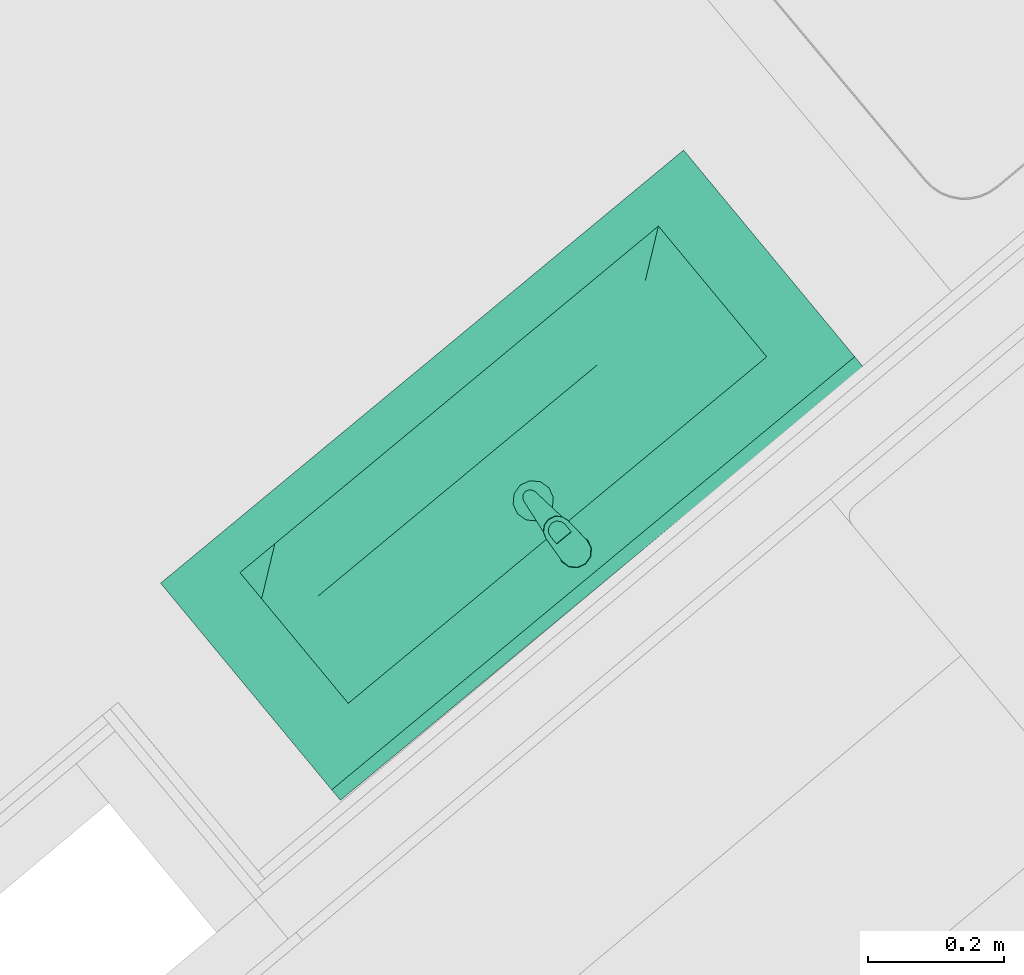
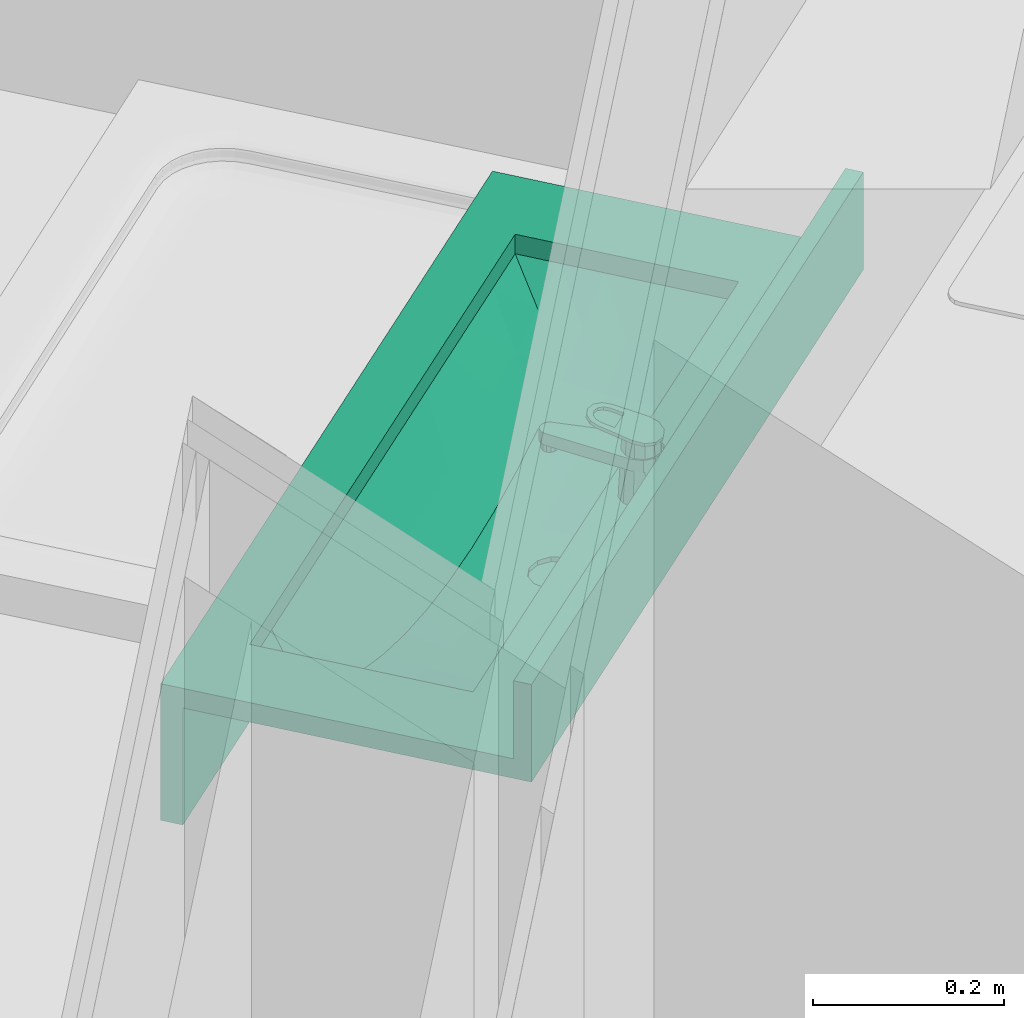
# One storey, part 69 of 75: 1 sanitary terminal.
"""IFC4 building model written with IfcOpenShell, lengths in metres."""

import ifcopenshell
import ifcopenshell.guid

model = None  # the IFC model being written
_history = None  # IfcOwnerHistory: only IFC2X3 demands one
_inside = {}  # id of a spatial element -> (the spatial element, [elements in it])
_under = {}  # id of a project, library or spatial element -> (it, [spatial elements below it])
_declared = {}  # id of a project -> (the project, [libraries it declares])
_typed = {}  # id of a type object -> (the type object, [elements of that type])
_made_of = {}  # id of a material, layer set ... -> (it, [elements and type objects made of it])


def new_model(schema):
    """Start an empty IFC model of exactly this schema.

    Asked for "IFC4X3", IfcOpenShell would pick the latest addendum, in which some entities
    have other attributes; the version numbers below select the first issue.
    IFC2X3 requires an IfcOwnerHistory on every rooted entity: one is made here for all.
    """
    global model, _history
    if schema == "IFC4X3":
        model = ifcopenshell.file(schema_version=(4, 3, 0, 0))
    else:
        model = ifcopenshell.file(schema=schema)
    _inside.clear()
    _under.clear()
    _declared.clear()
    _typed.clear()
    _made_of.clear()
    _history = None
    if model.schema == "IFC2X3":
        org = make("IfcOrganization", Name="unknown")
        user = make(
            "IfcPersonAndOrganization",
            ThePerson=make("IfcPerson", FamilyName="unknown"),
            TheOrganization=org,
        )
        app = make(
            "IfcApplication",
            ApplicationDeveloper=org,
            Version="unknown",
            ApplicationFullName="unknown",
            ApplicationIdentifier="unknown",
        )
        _history = make(
            "IfcOwnerHistory",
            OwningUser=user,
            OwningApplication=app,
            ChangeAction="ADDED",
            CreationDate=0,
        )
    return model


def make(cls, **values):
    """One entity of the class cls with the attributes given. An attribute that is None is left unset."""
    return model.create_entity(
        cls, **{name: value for name, value in values.items() if value is not None}
    )


def entity(cls, *values):
    """Any entity or typed value of the class cls, its attributes in the order of the schema. None: left unset."""
    e = model.create_entity(cls)
    for i, value in enumerate(values):
        if value is not None:
            e[i] = value
    return e


def rooted(cls, **values):
    """An entity with a GlobalId (a new one), such as an element, a storey or a relation."""
    return make(cls, GlobalId=ifcopenshell.guid.new(), OwnerHistory=_history, **values)


def si_unit(unit_type, name, prefix=None):
    """IfcSIUnit, for example si_unit("LENGTHUNIT", "METRE", prefix="MILLI")."""
    return make("IfcSIUnit", UnitType=unit_type, Prefix=prefix, Name=name)


def converted_unit(unit_type, name, factor, base, dimensions=None, offset=None):
    """IfcConversionBasedUnit, such as the inch: factor (a typed value) times the base unit."""
    return make(
        "IfcConversionBasedUnit"
        if offset is None
        else "IfcConversionBasedUnitWithOffset",
        ConversionOffset=offset,
        Dimensions=None
        if dimensions is None
        else entity("IfcDimensionalExponents", *dimensions),
        UnitType=unit_type,
        Name=name,
        ConversionFactor=make(
            "IfcMeasureWithUnit", ValueComponent=factor, UnitComponent=base
        ),
    )


def derived_unit(unit_type, elements):
    """IfcDerivedUnit: a product of units, each with its exponent."""
    return make(
        "IfcDerivedUnit",
        Elements=[
            make("IfcDerivedUnitElement", Unit=unit, Exponent=power)
            for unit, power in elements
        ],
        UnitType=unit_type,
    )


def assignment(units):
    """IfcUnitAssignment: the units of a project."""
    return None if units is None else make("IfcUnitAssignment", Units=units)


def point(xyz):
    """IfcCartesianPoint."""
    return None if xyz is None else make("IfcCartesianPoint", Coordinates=xyz)


def direction(xyz):
    """IfcDirection."""
    return None if xyz is None else make("IfcDirection", DirectionRatios=xyz)


def frame(location, z_axis=None, x_axis=None):
    """IfcAxis2Placement3D, a coordinate frame: its origin and axes. An axis left out is left unset."""
    return make(
        "IfcAxis2Placement3D",
        Location=point(location),
        Axis=direction(z_axis),
        RefDirection=direction(x_axis),
    )


def origin_with_axes():
    """The frame at (0, 0, 0) with the z axis (0, 0, 1) and the x axis (1, 0, 0) written out."""
    return frame((0.0, 0.0, 0.0), z_axis=(0.0, 0.0, 1.0), x_axis=(1.0, 0.0, 0.0))


def place(relative_to, where):
    """IfcLocalPlacement: puts the frame where relative to a parent placement (None: the world)."""
    return make(
        "IfcLocalPlacement", PlacementRelTo=relative_to, RelativePlacement=where
    )


def context(
    kind, dimensions, precision=None, world=None, true_north=None, identifier=None
):
    """IfcGeometricRepresentationContext, for example the 3D "Model" context."""
    return make(
        "IfcGeometricRepresentationContext",
        ContextIdentifier=identifier,
        ContextType=kind,
        CoordinateSpaceDimension=dimensions,
        Precision=precision,
        WorldCoordinateSystem=world,
        TrueNorth=true_north,
    )


def subcontext(parent, identifier, kind, view, scale=None):
    """IfcGeometricRepresentationSubContext, for example "Body" below "Model"."""
    return make(
        "IfcGeometricRepresentationSubContext",
        ContextIdentifier=identifier,
        ContextType=kind,
        ParentContext=parent,
        TargetScale=scale,
        TargetView=view,
    )


def project(units=None, contexts=None):
    """IfcProject with its units and contexts."""
    return rooted(
        "IfcProject",
        Name="project",
        RepresentationContexts=contexts,
        UnitsInContext=assignment(units),
    )


def spatial(cls, under=None, at=None, **own):
    """A site, building, storey or space (cls), placed at a placement, below another one or the project."""
    s = rooted(cls, ObjectPlacement=at, **own)
    if under is not None:
        _under.setdefault(under.id(), (under, []))[1].append(s)
    return s


def point_list(points):
    """IfcCartesianPointList2D or 3D."""
    cls = (
        "IfcCartesianPointList2D" if len(points[0]) == 2 else "IfcCartesianPointList3D"
    )
    return make(cls, CoordList=points)


def polygons(points, faces, closed=None, point_numbers=None):
    """IfcPolygonalFaceSet: a face is its outer loop, then its inner loops; points numbered from 1."""
    made = []
    for loops in faces:
        if len(loops) == 1:
            made.append(make("IfcIndexedPolygonalFace", CoordIndex=loops[0]))
        else:
            made.append(
                make(
                    "IfcIndexedPolygonalFaceWithVoids",
                    CoordIndex=loops[0],
                    InnerCoordIndices=loops[1:],
                )
            )
    return make(
        "IfcPolygonalFaceSet",
        Coordinates=point_list(points),
        Closed=closed,
        Faces=made,
        PnIndex=point_numbers,
    )


def shape(context_of_items, identifier, shape_type, items):
    """IfcShapeRepresentation: the items that make up one representation, for example the "Body"."""
    return make(
        "IfcShapeRepresentation",
        ContextOfItems=context_of_items,
        RepresentationIdentifier=identifier,
        RepresentationType=shape_type,
        Items=items,
    )


def source(mapping_origin, context_of_items, identifier, shape_type, items):
    """IfcRepresentationMap: a shape defined once, which mapped items show again and again."""
    return make(
        "IfcRepresentationMap",
        MappingOrigin=mapping_origin,
        MappedRepresentation=shape(context_of_items, identifier, shape_type, items),
    )


def transform(
    local_origin,
    x_axis=None,
    y_axis=None,
    z_axis=None,
    scale=None,
    scale2=None,
    scale3=None,
    uniform=True,
):
    """IfcCartesianTransformationOperator3D, or its non-uniform kind. x_axis, y_axis, z_axis: its Axis1, 2, 3."""
    if uniform:
        return make(
            "IfcCartesianTransformationOperator3D",
            Axis1=direction(x_axis),
            Axis2=direction(y_axis),
            LocalOrigin=point(local_origin),
            Scale=scale,
            Axis3=direction(z_axis),
        )
    return make(
        "IfcCartesianTransformationOperator3DnonUniform",
        Axis1=direction(x_axis),
        Axis2=direction(y_axis),
        LocalOrigin=point(local_origin),
        Scale=scale,
        Axis3=direction(z_axis),
        Scale2=scale2,
        Scale3=scale3,
    )


def mapped(mapping_source, mapping_target):
    """IfcMappedItem: shows the shape of a source again, moved by a transform."""
    return make(
        "IfcMappedItem", MappingSource=mapping_source, MappingTarget=mapping_target
    )


def made_of(thing, what):
    """Note that an element or type object is made of a material, layer set ...; save() writes the relation."""
    if what is not None:
        _made_of.setdefault(what.id(), (what, []))[1].append(thing)
    return thing


def type_object(cls, material=None, **own):
    """A type object (cls), such as IfcWallType, which elements share."""
    return made_of(rooted(cls, **own), material)


def element(
    cls,
    number,
    at=None,
    inside=None,
    cuts=None,
    type_object=None,
    material=None,
    context=None,
    identifier="Body",
    shape_type=None,
    held_by="IfcProductDefinitionShape",
    body=None,
    shapes=None,
    **own,
):
    """One element of the class cls, such as IfcWall. Its Tag is "e" and its number.

    at: its placement. inside: the storey or other place that contains it. cuts: it is an
    opening in that element (IfcRelVoidsElement). A single representation is given by context,
    identifier, shape_type and body (its items); several are given by shapes. held_by: the class
    of the entity that holds the representations. save() writes the other relations.
    """
    e = rooted(cls, Tag="e%d" % number, ObjectPlacement=at, **own)
    if body is not None:
        shapes = [shape(context, identifier, shape_type, body)]
    if shapes is not None:
        e.Representation = make(held_by, Representations=shapes)
    if inside is not None:
        _inside.setdefault(inside.id(), (inside, []))[1].append(e)
    if cuts is not None:
        rooted(
            "IfcRelVoidsElement", RelatingBuildingElement=cuts, RelatedOpeningElement=e
        )
    if type_object is not None:
        _typed.setdefault(type_object.id(), (type_object, []))[1].append(e)
    return made_of(e, material)


def aggregate(whole, parts):
    """IfcRelAggregates: a whole, such as a stair, and the parts it consists of."""
    return rooted("IfcRelAggregates", RelatingObject=whole, RelatedObjects=parts)


def save(model, path):
    """Write the relations noted so far, then the file.

    IfcRelAggregates (storeys below a building ...), IfcRelContainedInSpatialStructure (elements
    in a storey), IfcRelDefinesByType, IfcRelAssociatesMaterial and IfcRelDeclares: one each for
    every whole, place, type object, material and project.
    """
    for whole, parts in _under.values():
        aggregate(whole, parts)
    for where, things in _inside.values():
        rooted(
            "IfcRelContainedInSpatialStructure",
            RelatedElements=things,
            RelatingStructure=where,
        )
    for kind, things in _typed.values():
        rooted("IfcRelDefinesByType", RelatedObjects=things, RelatingType=kind)
    for what, things in _made_of.values():
        rooted("IfcRelAssociatesMaterial", RelatedObjects=things, RelatingMaterial=what)
    for by, libraries in _declared.values():
        rooted("IfcRelDeclares", RelatingContext=by, RelatedDefinitions=libraries)
    model.write(path)


model = new_model("IFC4")

# Units and contexts
model_context = context("Model", 3, precision=1e-05, world=origin_with_axes(), true_north=direction((0.0, 1.0)))
body_context = subcontext(model_context, "Body", "Model", "MODEL_VIEW")
ifc_project = project(units=[si_unit("LENGTHUNIT", "METRE"), si_unit("AREAUNIT", "SQUARE_METRE"), si_unit("VOLUMEUNIT", "CUBIC_METRE"), converted_unit("PLANEANGLEUNIT", "DEGREE", entity("IfcPlaneAngleMeasure", 0.0174532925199), si_unit("PLANEANGLEUNIT", "RADIAN"), dimensions=[0, 0, 0, 0, 0, 0, 0]), converted_unit("TIMEUNIT", "Year", entity("IfcTimeMeasure", 31556926.0), si_unit("TIMEUNIT", "SECOND"), dimensions=[0, 0, 1, 0, 0, 0, 0]), si_unit("MASSUNIT", "GRAM", prefix="KILO"), si_unit("THERMODYNAMICTEMPERATUREUNIT", "DEGREE_CELSIUS"), si_unit("LUMINOUSINTENSITYUNIT", "LUMEN"), si_unit("ENERGYUNIT", "JOULE", prefix="MEGA"), derived_unit("THERMALCONDUCTANCEUNIT", [(si_unit("POWERUNIT", "WATT"), 1), (si_unit("LENGTHUNIT", "METRE"), -1), (si_unit("THERMODYNAMICTEMPERATUREUNIT", "KELVIN"), -1)]), derived_unit("SPECIFICHEATCAPACITYUNIT", [(si_unit("ENERGYUNIT", "JOULE"), 1), (si_unit("MASSUNIT", "GRAM", prefix="KILO"), -1), (si_unit("THERMODYNAMICTEMPERATUREUNIT", "KELVIN"), -1)]), derived_unit("MASSDENSITYUNIT", [(si_unit("MASSUNIT", "GRAM", prefix="KILO"), 1), (si_unit("VOLUMEUNIT", "CUBIC_METRE"), -1)])], contexts=[model_context])

# Site, building, storey, space
site_placement = place(None, frame((-0.00153261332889, -0.00661245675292, 0.0), z_axis=(0.0, 0.0, 1.0), x_axis=(1.0, 0.0, 0.0)))
site = spatial("IfcSite", under=ifc_project, at=site_placement, Name="Gelände", CompositionType="ELEMENT")
building_placement = place(site_placement, origin_with_axes())
building = spatial("IfcBuilding", under=site, at=building_placement, Name="Gebäude", CompositionType="ELEMENT")
storey_placement = place(building_placement, frame((0.0, 0.0, -0.22), z_axis=(0.0, 0.0, 1.0), x_axis=(1.0, 0.0, 0.0)))
storey = spatial("IfcBuildingStorey", under=building, at=storey_placement, Name="EG", CompositionType="ELEMENT", Elevation=-0.22)
space_placement = place(storey_placement, frame((7.10032609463, 23.6820800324, 0.22), z_axis=(0.0, 0.0, 1.0), x_axis=(0.767365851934, 0.641209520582, 0.0)))
space = spatial("IfcSpace", under=storey, at=space_placement, CompositionType="ELEMENT", PredefinedType="NOTDEFINED")

# Sanitary terminal
sanitary_terminal_type = type_object("IfcSanitaryTerminalType", Name="Waschbecken mehrfach 26", PredefinedType="NOTDEFINED")
shared_shape = source(origin_with_axes(), body_context, "Body", "Tessellation", [
    polygons([(-0.5, 0.0, 0.875), (0.5, 0.0, 0.875), (0.5, -0.415119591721, 0.875), (-0.5, -0.415119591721, 0.875), (-0.4, -0.35255979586, 0.875), (0.4, -0.35255979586, 0.875), (0.4, -0.10255979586, 0.875), (-0.4, -0.10255979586, 0.875), (-0.5, 0.0, 0.9), (0.5, 0.0, 0.9), (0.5, -0.415119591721, 0.9), (-0.5, -0.415119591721, 0.9), (-0.4, -0.35255979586, 0.9), (0.4, -0.35255979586, 0.9), (0.4, -0.10255979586, 0.9), (-0.4, -0.10255979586, 0.9)], [[[1, 2, 3, 4], [5, 6, 7, 8]], [[1, 9, 10, 2]], [[2, 10, 11, 3]], [[3, 11, 12, 4]], [[4, 12, 9, 1]], [[13, 14, 6, 5]], [[14, 15, 7, 6]], [[15, 16, 8, 7]], [[16, 13, 5, 8]], [[11, 10, 9, 12], [13, 16, 15, 14]]], closed=True),
    polygons([(-0.5, -0.02, 0.9), (0.5, -0.02, 0.9), (0.5, -0.02, 1.0), (-0.5, -0.02, 1.0), (-0.5, 0.0, 0.9), (0.5, 0.0, 0.9), (0.5, 0.0, 1.0), (-0.5, 0.0, 1.0)], [[[1, 2, 3, 4]], [[1, 5, 6, 2]], [[2, 6, 7, 3]], [[4, 3, 7, 8]], [[5, 1, 4, 8]], [[6, 5, 8, 7]]], closed=True),
    polygons([(-0.5, -0.415119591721, 0.725), (0.5, -0.415119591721, 0.725), (0.5, -0.415119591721, 0.875), (-0.5, -0.415119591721, 0.875), (-0.5, -0.390119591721, 0.725), (0.5, -0.390119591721, 0.725), (0.5, -0.390119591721, 0.875), (-0.5, -0.390119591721, 0.875)], [[[1, 2, 3, 4]], [[1, 5, 6, 2]], [[2, 6, 7, 3]], [[4, 3, 7, 8]], [[5, 1, 4, 8]], [[6, 5, 8, 7]]], closed=True),
    polygons([(0.0, -0.18855104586, 0.775), (-0.015, -0.184531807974, 0.775589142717), (-0.0259807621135, -0.17355104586, 0.776020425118), (-0.03, -0.15855104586, 0.776178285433), (-0.0283946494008, -0.15255979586, 0.776115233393), (-0.0666666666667, -0.15255979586, 0.777618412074), (-0.0666666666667, -0.20255979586, 0.777618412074), (0.0, -0.20255979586, 0.775), (-0.015, -0.132570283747, 0.775589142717), (0.0, -0.12855104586, 0.775), (0.0, -0.10255979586, 0.775), (-0.0666666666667, -0.10255979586, 0.777618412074), (-0.0259807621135, -0.14355104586, 0.776020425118), (-0.133333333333, -0.15255979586, 0.785522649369), (-0.133333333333, -0.20255979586, 0.785522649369), (-0.0666666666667, -0.25255979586, 0.787498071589), (0.0666666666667, -0.15255979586, 0.777618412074), (0.0283946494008, -0.15255979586, 0.776115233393), (0.03, -0.15855104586, 0.776178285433), (0.0259807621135, -0.17355104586, 0.776020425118), (0.015, -0.184531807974, 0.775589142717), (0.0666666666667, -0.20255979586, 0.777618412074), (0.015, -0.132570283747, 0.775589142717), (0.0259807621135, -0.14355104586, 0.776020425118), (0.0666666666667, -0.10255979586, 0.777618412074), (0.2, -0.10255979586, 0.798864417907), (0.266666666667, -0.10255979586, 0.81791333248), (0.333333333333, -0.10255979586, 0.843086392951), (0.4, -0.10255979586, 0.875), (-0.4, -0.10255979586, 0.875), (-0.333333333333, -0.10255979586, 0.843086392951), (-0.266666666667, -0.10255979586, 0.81791333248), (-0.2, -0.10255979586, 0.798864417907), (-0.133333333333, -0.10255979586, 0.785522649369), (0.133333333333, -0.10255979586, 0.785522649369), (-0.2, -0.15255979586, 0.798864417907), (-0.2, -0.20255979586, 0.798864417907), (-0.133333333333, -0.25255979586, 0.794673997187), (0.0, -0.25255979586, 0.785118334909), (0.133333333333, -0.20255979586, 0.785522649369), (0.133333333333, -0.15255979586, 0.785522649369), (0.266666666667, -0.15255979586, 0.81791333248), (0.2, -0.15255979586, 0.798864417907), (0.333333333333, -0.15255979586, 0.843086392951), (0.4, -0.15255979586, 0.875), (-0.333333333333, -0.15255979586, 0.843086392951), (-0.4, -0.15255979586, 0.875), (-0.266666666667, -0.15255979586, 0.81791333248), (-0.266666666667, -0.20255979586, 0.81791333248), (-0.2, -0.25255979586, 0.80675915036), (-0.0666666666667, -0.30255979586, 0.828578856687), (-0.133333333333, -0.30255979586, 0.832507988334), (0.0666666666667, -0.25255979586, 0.787498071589), (0.2, -0.20255979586, 0.798864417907), (0.266666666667, -0.20255979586, 0.81791333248), (0.333333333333, -0.20255979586, 0.843086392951), (0.4, -0.20255979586, 0.875), (0.4, -0.25255979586, 0.875), (0.4, -0.30255979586, 0.875), (0.4, -0.35255979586, 0.875), (-0.4, -0.25255979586, 0.875), (-0.4, -0.20255979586, 0.875), (-0.4, -0.35255979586, 0.875), (-0.4, -0.30255979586, 0.875), (-0.333333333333, -0.20255979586, 0.843086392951), (-0.266666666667, -0.25255979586, 0.823952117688), (-0.2, -0.30255979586, 0.839076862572), (0.0, -0.30255979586, 0.827271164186), (0.133333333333, -0.25255979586, 0.794673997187), (0.2, -0.25255979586, 0.80675915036), (0.266666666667, -0.25255979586, 0.823952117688), (0.333333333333, -0.25255979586, 0.846554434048), (0.333333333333, -0.30255979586, 0.860271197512), (0.333333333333, -0.35255979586, 0.875), (-0.333333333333, -0.30255979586, 0.860271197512), (-0.333333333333, -0.25255979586, 0.846554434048), (-0.266666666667, -0.30255979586, 0.848316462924), (-0.0666666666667, -0.35255979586, 0.875), (-0.133333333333, -0.35255979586, 0.875), (-0.2, -0.35255979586, 0.875), (0.0666666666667, -0.30255979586, 0.828578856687), (-0.266666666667, -0.35255979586, 0.875), (-0.333333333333, -0.35255979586, 0.875), (0.266666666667, -0.35255979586, 0.875), (0.2, -0.35255979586, 0.875), (0.133333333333, -0.35255979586, 0.875), (0.0666666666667, -0.35255979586, 0.875), (0.0, -0.35255979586, 0.875), (0.133333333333, -0.30255979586, 0.832507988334), (0.2, -0.30255979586, 0.839076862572), (0.266666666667, -0.30255979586, 0.848316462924)], [[[1, 2, 3, 4, 5, 6, 7, 8]], [[9, 10, 11, 12, 6, 5, 13]], [[7, 6, 14, 15]], [[16, 8, 7]], [[17, 18, 19, 20, 21, 1, 8, 22]], [[10, 23, 24, 18, 17, 25, 11]], [[26, 27, 28, 29, 30, 31, 32, 33, 34, 12, 11, 25, 35]], [[6, 12, 34, 14]], [[15, 14, 36, 37]], [[38, 7, 15]], [[16, 39, 8]], [[38, 16, 7]], [[39, 22, 8]], [[40, 41, 17, 22]], [[41, 35, 25, 17]], [[42, 27, 26, 43]], [[44, 28, 27, 42]], [[45, 29, 28, 44]], [[46, 31, 30, 47]], [[48, 32, 31, 46]], [[36, 33, 32, 48]], [[14, 34, 33, 36]], [[43, 26, 35, 41]], [[37, 36, 48, 49]], [[50, 15, 37]], [[50, 38, 15]], [[51, 39, 16]], [[52, 16, 38]], [[39, 53, 22]], [[54, 43, 41, 40]], [[53, 40, 22]], [[55, 42, 43, 54]], [[56, 44, 42, 55]], [[57, 58, 59, 60, 29, 45]], [[57, 45, 44, 56]], [[61, 62, 47, 30, 63, 64]], [[65, 46, 47, 62]], [[49, 48, 46, 65]], [[66, 37, 49]], [[66, 50, 37]], [[67, 38, 50]], [[51, 68, 39]], [[52, 51, 16]], [[67, 52, 38]], [[68, 53, 39]], [[69, 54, 40]], [[53, 69, 40]], [[70, 55, 54]], [[71, 56, 55]], [[72, 58, 57]], [[73, 59, 58]], [[74, 60, 59]], [[72, 57, 56]], [[61, 65, 62]], [[63, 75, 64]], [[64, 76, 61]], [[76, 49, 65]], [[76, 66, 49]], [[77, 50, 66]], [[77, 67, 50]], [[78, 68, 51]], [[79, 51, 52]], [[80, 52, 67]], [[68, 81, 53]], [[69, 70, 54]], [[81, 69, 53]], [[70, 71, 55]], [[71, 72, 56]], [[73, 58, 72]], [[74, 59, 73]], [[80, 82, 83, 63, 60, 74, 84, 85, 86, 87, 88, 78, 79]], [[61, 76, 65]], [[63, 83, 75]], [[64, 75, 76]], [[75, 66, 76]], [[75, 77, 66]], [[82, 67, 77]], [[78, 88, 68]], [[79, 78, 51]], [[80, 79, 52]], [[82, 80, 67]], [[88, 81, 68]], [[89, 70, 69]], [[81, 89, 69]], [[90, 71, 70]], [[91, 72, 71]], [[91, 73, 72]], [[84, 74, 73]], [[83, 82, 77]], [[85, 84, 91]], [[86, 85, 90]], [[87, 86, 89]], [[88, 87, 81]], [[83, 77, 75]], [[89, 90, 70]], [[87, 89, 81]], [[90, 91, 71]], [[84, 73, 91]], [[85, 91, 90]], [[86, 90, 89]]], closed=False),
    polygons([(0.03, -0.15855104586, 0.776178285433), (0.0259807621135, -0.17355104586, 0.776020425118), (0.0259807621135, -0.17355104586, 0.77), (0.03, -0.15855104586, 0.77), (0.015, -0.184531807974, 0.775589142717), (0.015, -0.184531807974, 0.77), (0.0, -0.12855104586, 0.77), (0.015, -0.132570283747, 0.77), (0.0259807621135, -0.14355104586, 0.77), (0.0, -0.18855104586, 0.77), (-0.015, -0.184531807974, 0.77), (-0.0259807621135, -0.17355104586, 0.77), (-0.03, -0.15855104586, 0.77), (-0.0259807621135, -0.14355104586, 0.77), (-0.015, -0.132570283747, 0.77), (0.0259807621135, -0.14355104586, 0.776020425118), (0.0, -0.18855104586, 0.775), (0.0, -0.12855104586, 0.775), (0.015, -0.132570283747, 0.775589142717), (-0.015, -0.184531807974, 0.775589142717), (-0.0259807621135, -0.17355104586, 0.776020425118), (-0.03, -0.15855104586, 0.776178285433), (-0.0259807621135, -0.14355104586, 0.776020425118), (-0.015, -0.132570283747, 0.775589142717)], [[[1, 2, 3, 4]], [[2, 5, 6, 3]], [[7, 8, 9, 4, 3, 6, 10, 11, 12, 13, 14, 15]], [[16, 1, 4, 9]], [[5, 17, 10, 6]], [[18, 19, 8, 7]], [[19, 16, 9, 8]], [[17, 20, 11, 10]], [[20, 21, 12, 11]], [[21, 22, 13, 12]], [[22, 23, 14, 13]], [[23, 24, 15, 14]], [[24, 18, 7, 15]]], closed=False),
    polygons([(0.0125, -0.0409091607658, 0.9), (0.0, -0.0375597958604, 0.9), (0.0, -0.0413578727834, 0.975961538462), (0.0105873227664, -0.0442220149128, 0.976507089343), (0.0216506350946, -0.0500597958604, 0.9), (0.025, -0.0625597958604, 0.9), (0.0216506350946, -0.0750597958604, 0.9), (0.0125, -0.084210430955, 0.9), (0.0, -0.0875597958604, 0.9), (-0.0125, -0.084210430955, 0.9), (-0.0216506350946, -0.0750597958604, 0.9), (-0.025, -0.0625597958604, 0.9), (-0.0216506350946, -0.0500597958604, 0.9), (-0.0125, -0.0409091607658, 0.9), (-0.0105873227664, -0.0442220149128, 0.976507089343), (-0.0182735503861, -0.0520095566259, 0.977990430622), (-0.021, -0.0625597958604, 0.98), (-0.0181003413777, -0.0730100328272, 0.981990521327), (-0.0104141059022, -0.0805975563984, 0.983435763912), (0.0, -0.0833616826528, 0.983962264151), (0.0104141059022, -0.0805975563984, 0.983435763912), (0.0181003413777, -0.0730100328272, 0.981990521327), (0.021, -0.0625597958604, 0.98), (0.0182735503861, -0.0520095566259, 0.977990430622)], [[[1, 2, 3, 4]], [[1, 5, 6, 7, 8, 9, 10, 11, 12, 13, 14, 2]], [[2, 14, 15, 3]], [[4, 3, 15, 16, 17, 18, 19, 20, 21, 22, 23, 24]], [[5, 1, 4, 24]], [[6, 5, 24, 23]], [[7, 6, 23, 22]], [[8, 7, 22, 21]], [[9, 8, 21, 20]], [[10, 9, 20, 19]], [[11, 10, 19, 18]], [[12, 11, 18, 17]], [[13, 12, 17, 16]], [[14, 13, 16, 15]]], closed=True),
    polygons([(0.009, -0.16555979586, 0.935), (0.00779422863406, -0.16105979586, 0.935), (0.00779422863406, -0.16105979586, 0.945), (0.009, -0.16555979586, 0.945), (0.00779422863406, -0.17005979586, 0.935), (0.0045, -0.173354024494, 0.935), (0.0, -0.17455979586, 0.935), (-0.0045, -0.173354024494, 0.935), (-0.00779422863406, -0.17005979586, 0.935), (-0.009, -0.16555979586, 0.935), (-0.00779422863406, -0.16105979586, 0.935), (-0.0045, -0.157765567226, 0.935), (0.0, -0.15655979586, 0.935), (0.0045, -0.157765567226, 0.935), (0.0045, -0.157765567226, 0.945), (0.0, -0.15655979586, 0.945), (-0.0045, -0.157765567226, 0.945), (-0.00779422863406, -0.16105979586, 0.945), (-0.009, -0.16555979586, 0.945), (-0.00779422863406, -0.17005979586, 0.945), (-0.0045, -0.173354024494, 0.945), (0.0, -0.17455979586, 0.945), (0.0045, -0.173354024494, 0.945), (0.00779422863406, -0.17005979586, 0.945)], [[[1, 2, 3, 4]], [[1, 5, 6, 7, 8, 9, 10, 11, 12, 13, 14, 2]], [[2, 14, 15, 3]], [[4, 3, 15, 16, 17, 18, 19, 20, 21, 22, 23, 24]], [[5, 1, 4, 24]], [[6, 5, 24, 23]], [[7, 6, 23, 22]], [[8, 7, 22, 21]], [[9, 8, 21, 20]], [[10, 9, 20, 19]], [[11, 10, 19, 18]], [[12, 11, 18, 17]], [[13, 12, 17, 16]], [[14, 13, 16, 15]]], closed=True),
    polygons([(-0.0128717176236, -0.0423034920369, 0.96), (-0.021727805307, -0.0523665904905, 0.96), (-0.0238054, -0.0656096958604, 0.96), (-0.010911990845, -0.166948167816, 0.96), (-0.00902887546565, -0.17184299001, 0.96), (-0.00509332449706, -0.175309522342, 0.96), (3.62679860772e-08, -0.176559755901, 0.96), (0.00509338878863, -0.175309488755, 0.96), (0.00902891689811, -0.171842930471, 0.96), (0.010912, -0.16694809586, 0.96), (0.0238053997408, -0.0656096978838, 0.96), (0.0217278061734, -0.0523665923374, 0.96), (0.0128717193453, -0.042303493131, 0.96), (1.01998896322e-09, -0.0385598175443, 0.96), (0.011, -0.0435072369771, 0.96), (0.0190525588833, -0.0515597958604, 0.96), (0.022, -0.0625597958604, 0.96), (0.0190525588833, -0.0735597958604, 0.96), (0.011, -0.0816123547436, 0.96), (0.0, -0.0845597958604, 0.96), (-0.011, -0.0816123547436, 0.96), (-0.0190525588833, -0.0735597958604, 0.96), (-0.022, -0.0625597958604, 0.96), (-0.0190525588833, -0.0515597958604, 0.96), (-0.011, -0.0435072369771, 0.96), (0.0, -0.0405597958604, 0.96), (-0.021727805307, -0.0523665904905, 0.945), (-0.0128717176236, -0.0423034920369, 0.945), (-0.0238054, -0.0656096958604, 0.945), (-0.010911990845, -0.166948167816, 0.945), (-0.00902887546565, -0.17184299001, 0.945), (-0.00509332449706, -0.175309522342, 0.945), (3.62679860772e-08, -0.176559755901, 0.945), (0.00509338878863, -0.175309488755, 0.945), (0.00902891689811, -0.171842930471, 0.945), (0.010912, -0.16694809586, 0.945), (0.0238053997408, -0.0656096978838, 0.945), (0.0217278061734, -0.0523665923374, 0.945), (0.0128717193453, -0.042303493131, 0.945), (1.01998896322e-09, -0.0385598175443, 0.945), (0.011375, -0.0428577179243, 0.945), (0.0197020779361, -0.0511847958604, 0.945), (0.02275, -0.0625597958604, 0.945), (0.0197020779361, -0.0739347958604, 0.945), (0.011375, -0.0822618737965, 0.945), (0.0, -0.0853097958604, 0.945), (-0.011375, -0.0822618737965, 0.945), (-0.0197020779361, -0.0739347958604, 0.945), (-0.02275, -0.0625597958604, 0.945), (-0.0197020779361, -0.0511847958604, 0.945), (-0.011375, -0.0428577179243, 0.945), (0.0, -0.0398097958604, 0.945)], [[[1, 2, 3, 4, 5, 6, 7, 8, 9, 10, 11, 12, 13, 14], [15, 16, 17, 18, 19, 20, 21, 22, 23, 24, 25, 26]], [[27, 2, 1, 28]], [[29, 3, 2, 27]], [[30, 4, 3, 29]], [[31, 5, 4, 30]], [[32, 6, 5, 31]], [[33, 7, 6, 32]], [[34, 8, 7, 33]], [[35, 9, 8, 34]], [[36, 10, 9, 35]], [[37, 11, 10, 36]], [[38, 12, 11, 37]], [[39, 13, 12, 38]], [[40, 14, 13, 39]], [[28, 1, 14, 40]], [[41, 42, 16, 15]], [[42, 43, 17, 16]], [[43, 44, 18, 17]], [[44, 45, 19, 18]], [[45, 46, 20, 19]], [[21, 20, 46, 47]], [[22, 21, 47, 48]], [[23, 22, 48, 49]], [[24, 23, 49, 50]], [[25, 24, 50, 51]], [[51, 52, 26, 25]], [[52, 41, 15, 26]], [[33, 32, 31, 30, 29, 27, 28, 40, 39, 38, 37, 36, 35, 34], [45, 44, 43, 42, 41, 52, 51, 50, 49, 48, 47, 46]]], closed=True),
    polygons([(0.023893, -0.0642523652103, 0.980322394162), (0.0212964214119, -0.0517850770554, 0.977947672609), (0.0212964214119, -0.0510366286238, 0.981877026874), (0.023893, -0.0635039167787, 0.984251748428), (0.0209459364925, -0.104396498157, 0.987968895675), (0.0176631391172, -0.114074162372, 0.989812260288), (0.0100614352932, -0.121023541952, 0.991135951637), (-4.42652908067e-07, -0.123545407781, 0.991616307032), (-0.0100622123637, -0.121023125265, 0.991135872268), (-0.0176636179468, -0.114073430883, 0.989812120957), (-0.020946, -0.104395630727, 0.987968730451), (-0.023893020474, -0.0642520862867, 0.980322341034), (-0.0212962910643, -0.0517848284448, 0.977947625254), (-0.0124716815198, -0.0424685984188, 0.976173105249), (1.42337785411e-07, -0.0390278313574, 0.975517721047), (0.0124719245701, -0.0424687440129, 0.976173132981), (0.014, -0.0881005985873, 0.984864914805), (-0.014, -0.0881005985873, 0.984864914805), (-0.014, -0.102916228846, 0.987686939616), (-0.012124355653, -0.109792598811, 0.988996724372), (-0.007, -0.114826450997, 0.989955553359), (0.0, -0.116668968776, 0.990306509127), (0.007, -0.114826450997, 0.989955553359), (0.012124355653, -0.109792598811, 0.988996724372), (0.014, -0.102916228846, 0.987686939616), (0.0124719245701, -0.0417202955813, 0.980102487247), (1.42337785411e-07, -0.0382793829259, 0.979447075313), (-0.0124716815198, -0.0417201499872, 0.980102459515), (-0.0212962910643, -0.0510363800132, 0.98187697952), (-0.023893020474, -0.0635036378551, 0.984251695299), (-0.020946, -0.103647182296, 0.991898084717), (-0.0176636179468, -0.113324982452, 0.993741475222), (-0.0100622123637, -0.120274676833, 0.995065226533), (-4.42652908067e-07, -0.122796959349, 0.995545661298), (0.0100614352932, -0.120275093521, 0.995065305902), (0.0176631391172, -0.11332571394, 0.993741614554), (0.0209459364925, -0.103648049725, 0.991898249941), (0.014, -0.0873521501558, 0.988794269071), (0.014, -0.102167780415, 0.991616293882), (0.012124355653, -0.10904415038, 0.992926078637), (0.007, -0.114078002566, 0.993884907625), (0.0, -0.115920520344, 0.994235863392), (-0.007, -0.114078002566, 0.993884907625), (-0.012124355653, -0.10904415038, 0.992926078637), (-0.014, -0.102167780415, 0.991616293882), (-0.014, -0.0873521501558, 0.988794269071)], [[[1, 2, 3, 4]], [[1, 5, 6, 7, 8, 9, 10, 11, 12, 13, 14, 15, 16, 2], [17, 18, 19, 20, 21, 22, 23, 24, 25]], [[2, 16, 26, 3]], [[4, 3, 26, 27, 28, 29, 30, 31, 32, 33, 34, 35, 36, 37], [38, 39, 40, 41, 42, 43, 44, 45, 46]], [[5, 1, 4, 37]], [[6, 5, 37, 36]], [[7, 6, 36, 35]], [[8, 7, 35, 34]], [[9, 8, 34, 33]], [[10, 9, 33, 32]], [[11, 10, 32, 31]], [[12, 11, 31, 30]], [[13, 12, 30, 29]], [[14, 13, 29, 28]], [[15, 14, 28, 27]], [[16, 15, 27, 26]], [[18, 17, 38, 46]], [[19, 18, 46, 45]], [[20, 19, 45, 44]], [[21, 20, 44, 43]], [[22, 21, 43, 42]], [[23, 22, 42, 41]], [[24, 23, 41, 40]], [[25, 24, 40, 39]], [[17, 25, 39, 38]]], closed=True),
])
sanitary_terminal_placement = place(space_placement, frame((0.659537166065, 0.00016028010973, -0.075), z_axis=(0.0, 0.0, 1.0), x_axis=(-0.999990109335, 0.00444760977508, 0.0)))
element("IfcSanitaryTerminal", 1, at=sanitary_terminal_placement, inside=space, type_object=sanitary_terminal_type, Name="Objekt-0009", PredefinedType="NOTDEFINED", context=body_context, shape_type="MappedRepresentation", body=[
    mapped(shared_shape, transform((0.0, 0.0, 0.0))),
])

save(model, "model.ifc")
